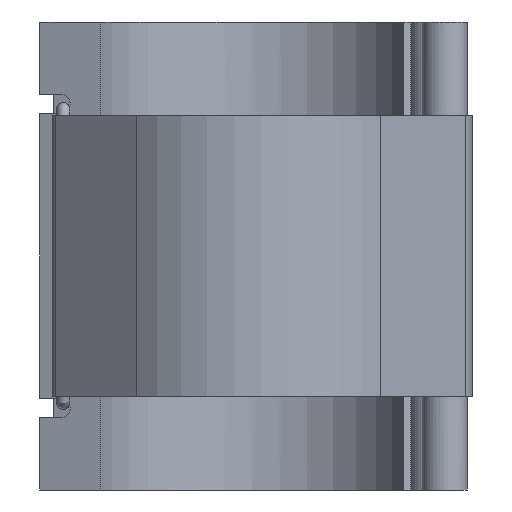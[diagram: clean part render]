
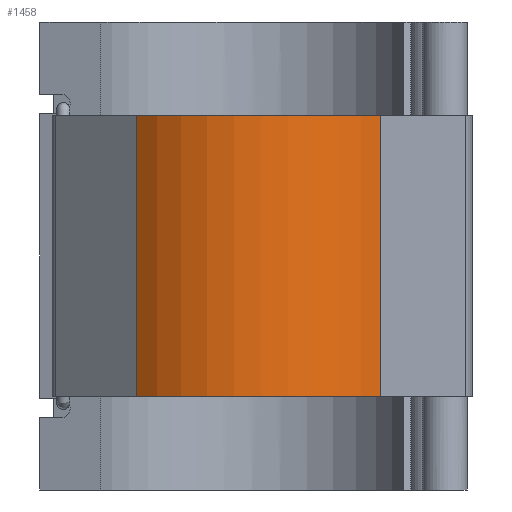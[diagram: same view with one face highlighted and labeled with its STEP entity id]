
A CAD part, front view. The second image highlights one B-rep face of the part: STEP entity #1458.
In plain terms, the highlighted cylindrical face has radius 62.469 mm (diameter 124.939 mm), a partial arc.
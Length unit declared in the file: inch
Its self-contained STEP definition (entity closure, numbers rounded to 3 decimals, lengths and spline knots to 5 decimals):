
#125=FACE_OUTER_BOUND('',#211,.T.);
#211=EDGE_LOOP('',(#1212,#1213,#1214,#1215));
#284=CIRCLE('',#1532,2.45943);
#293=CIRCLE('',#1542,2.45943);
#453=LINE('',#2430,#575);
#454=LINE('',#2432,#576);
#575=VECTOR('',#1949,0.3937);
#576=VECTOR('',#1952,0.3937);
#623=VERTEX_POINT('',#2181);
#624=VERTEX_POINT('',#2183);
#639=VERTEX_POINT('',#2215);
#640=VERTEX_POINT('',#2217);
#765=EDGE_CURVE('',#623,#624,#284,.T.);
#782=EDGE_CURVE('',#639,#640,#293,.T.);
#887=EDGE_CURVE('',#623,#640,#453,.T.);
#888=EDGE_CURVE('',#624,#639,#454,.T.);
#1212=ORIENTED_EDGE('',*,*,#887,.T.);
#1213=ORIENTED_EDGE('',*,*,#782,.F.);
#1214=ORIENTED_EDGE('',*,*,#888,.F.);
#1215=ORIENTED_EDGE('',*,*,#765,.F.);
#1397=CYLINDRICAL_SURFACE('',#1606,2.45943);
#1458=ADVANCED_FACE('',(#125),#1397,.T.);
#1532=AXIS2_PLACEMENT_3D('',#2184,#1719,#1720);
#1542=AXIS2_PLACEMENT_3D('',#2218,#1747,#1748);
#1606=AXIS2_PLACEMENT_3D('',#2431,#1950,#1951);
#1719=DIRECTION('center_axis',(0.,0.,-1.));
#1720=DIRECTION('ref_axis',(0.997,0.079,0.));
#1747=DIRECTION('center_axis',(0.,0.,1.));
#1748=DIRECTION('ref_axis',(0.997,0.079,0.));
#1949=DIRECTION('',(0.,0.,1.));
#1950=DIRECTION('center_axis',(0.,0.,1.));
#1951=DIRECTION('ref_axis',(0.997,0.079,0.));
#1952=DIRECTION('',(0.,0.,1.));
#2181=CARTESIAN_POINT('',(1.89483,-1.56794,-2.079));
#2183=CARTESIAN_POINT('',(-1.7157,-1.76215,-2.079));
#2184=CARTESIAN_POINT('Origin',(0.,0.,-2.079));
#2215=CARTESIAN_POINT('',(-1.7157,-1.76215,2.079));
#2217=CARTESIAN_POINT('',(1.89483,-1.56794,2.079));
#2218=CARTESIAN_POINT('Origin',(0.,0.,2.079));
#2430=CARTESIAN_POINT('',(1.89483,-1.56794,0.));
#2431=CARTESIAN_POINT('Origin',(0.,0.,0.));
#2432=CARTESIAN_POINT('',(-1.7157,-1.76215,0.));
